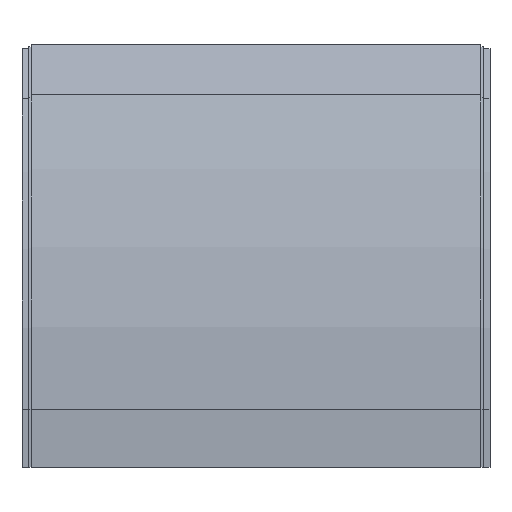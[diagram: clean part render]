
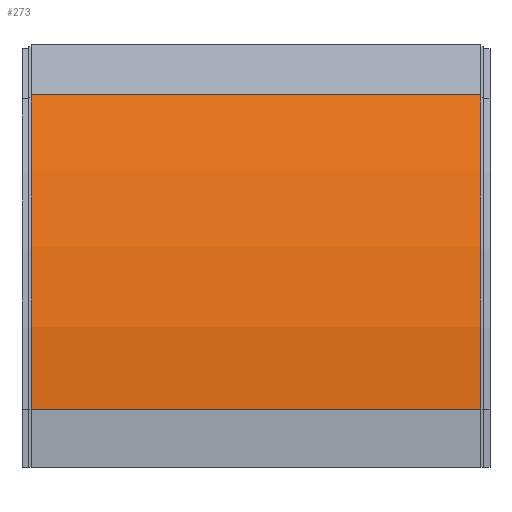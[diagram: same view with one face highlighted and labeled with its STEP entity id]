
A CAD part, front view. The second image highlights one B-rep face of the part: STEP entity #273.
In plain terms, the highlighted cylindrical face has radius 568.25 mm (diameter 1136.5 mm), a partial arc.
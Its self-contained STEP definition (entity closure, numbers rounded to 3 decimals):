
#66 = CARTESIAN_POINT ( 'NONE',  ( -203.2, 7.881, 336.625 ) ) ;
#69 = EDGE_CURVE ( 'NONE', #1350, #887, #245, .T. ) ;
#115 = DIRECTION ( 'NONE',  ( 0., 0., 1. ) ) ;
#163 = CIRCLE ( 'NONE', #464, 568.25 ) ;
#179 = CYLINDRICAL_SURFACE ( 'NONE', #892, 568.25 ) ;
#199 = VECTOR ( 'NONE', #449, 1000. ) ;
#209 = CARTESIAN_POINT ( 'NONE',  ( 203.2, -68.25, 52.5 ) ) ;
#245 = LINE ( 'NONE', #966, #199 ) ;
#273 = ADVANCED_FACE ( 'NONE', ( #1032 ), #179, .T. ) ;
#304 = VERTEX_POINT ( 'NONE', #209 ) ;
#444 = DIRECTION ( 'NONE',  ( -1., 0., 0. ) ) ;
#449 = DIRECTION ( 'NONE',  ( 1., 0., 0. ) ) ;
#464 = AXIS2_PLACEMENT_3D ( 'NONE', #888, #1351, #813 ) ;
#531 = CIRCLE ( 'NONE', #1236, 568.25 ) ;
#627 = ORIENTED_EDGE ( 'NONE', *, *, #1189, .T. ) ;
#641 = DIRECTION ( 'NONE',  ( -1., 0., 0. ) ) ;
#658 = EDGE_LOOP ( 'NONE', ( #627, #761, #890, #775 ) ) ;
#681 = VECTOR ( 'NONE', #749, 1000. ) ;
#749 = DIRECTION ( 'NONE',  ( 1., 0., 0. ) ) ;
#754 = CARTESIAN_POINT ( 'NONE',  ( -203.2, -68.25, 52.5 ) ) ;
#761 = ORIENTED_EDGE ( 'NONE', *, *, #1334, .T. ) ;
#775 = ORIENTED_EDGE ( 'NONE', *, *, #1115, .F. ) ;
#813 = DIRECTION ( 'NONE',  ( 0., 0., 1. ) ) ;
#825 = CARTESIAN_POINT ( 'NONE',  ( 203.2, 7.881, 336.625 ) ) ;
#849 = CARTESIAN_POINT ( 'NONE',  ( -203.2, -68.25, 52.5 ) ) ;
#887 = VERTEX_POINT ( 'NONE', #825 ) ;
#888 = CARTESIAN_POINT ( 'NONE',  ( 203.2, 500., 52.5 ) ) ;
#890 = ORIENTED_EDGE ( 'NONE', *, *, #69, .F. ) ;
#892 = AXIS2_PLACEMENT_3D ( 'NONE', #1068, #641, #1073 ) ;
#966 = CARTESIAN_POINT ( 'NONE',  ( -203.2, 7.881, 336.625 ) ) ;
#1019 = LINE ( 'NONE', #754, #681 ) ;
#1032 = FACE_OUTER_BOUND ( 'NONE', #658, .T. ) ;
#1068 = CARTESIAN_POINT ( 'NONE',  ( 0., 500., 52.5 ) ) ;
#1073 = DIRECTION ( 'NONE',  ( 0., 0., 1. ) ) ;
#1086 = VERTEX_POINT ( 'NONE', #849 ) ;
#1091 = CARTESIAN_POINT ( 'NONE',  ( -203.2, 500., 52.5 ) ) ;
#1115 = EDGE_CURVE ( 'NONE', #1086, #1350, #531, .T. ) ;
#1189 = EDGE_CURVE ( 'NONE', #1086, #304, #1019, .T. ) ;
#1236 = AXIS2_PLACEMENT_3D ( 'NONE', #1091, #444, #115 ) ;
#1334 = EDGE_CURVE ( 'NONE', #304, #887, #163, .T. ) ;
#1350 = VERTEX_POINT ( 'NONE', #66 ) ;
#1351 = DIRECTION ( 'NONE',  ( -1., 0., 0. ) ) ;
